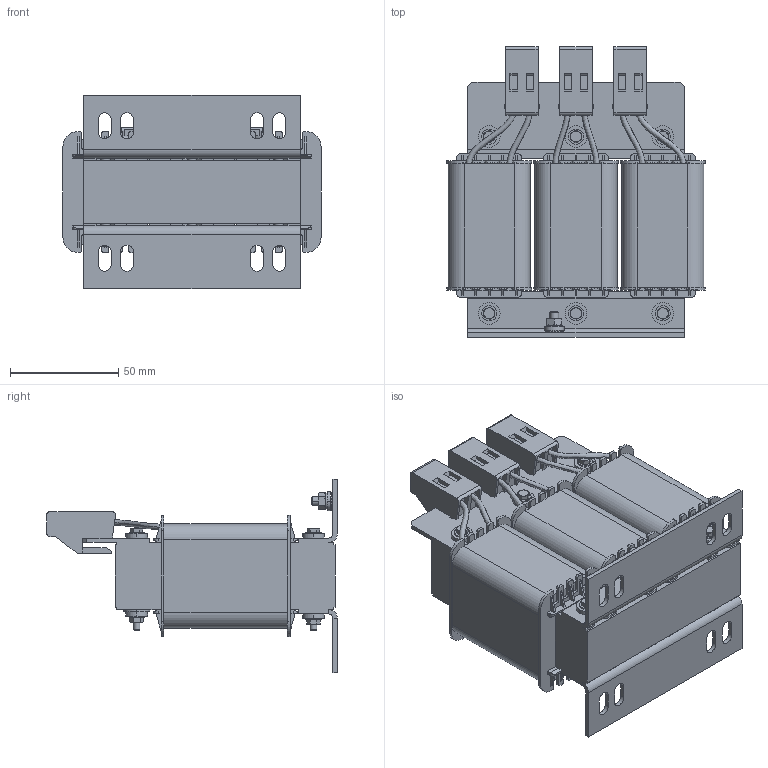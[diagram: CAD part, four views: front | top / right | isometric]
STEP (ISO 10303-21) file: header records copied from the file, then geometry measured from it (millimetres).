
FILE_DESCRIPTION((''),'2;1');
FILE_NAME('PRT0002','2021-12-11T',('ed4874'),(''),'CREO PARAMETRIC BY PTC INC, 2018220','CREO PARAMETRIC BY PTC INC, 2018220','');
FILE_SCHEMA(('AUTOMOTIVE_DESIGN { 1 0 10303 214 1 1 1 1 }'));
Length unit declared in the file: millimetre
Products named in the file (1): PRT0002
Bounding box: 119 x 134 x 89 mm (x, y, z)
Volume: 492513.1 mm3; surface area: 96082.8 mm2
Topology: 1 solids, 13 shells, 1784 faces, 4751 edges, 3054 vertices
Faces by surface type: plane 1116, cylinder 512, cone 144, bspline 12
Entity records: 57716 total; most frequent: CARTESIAN_POINT 12622, ORIENTED_EDGE 9502, DIRECTION 9233, EDGE_CURVE 4751, VECTOR 3237, LINE 3237, VERTEX_POINT 3054, AXIS2_PLACEMENT_3D 2998
